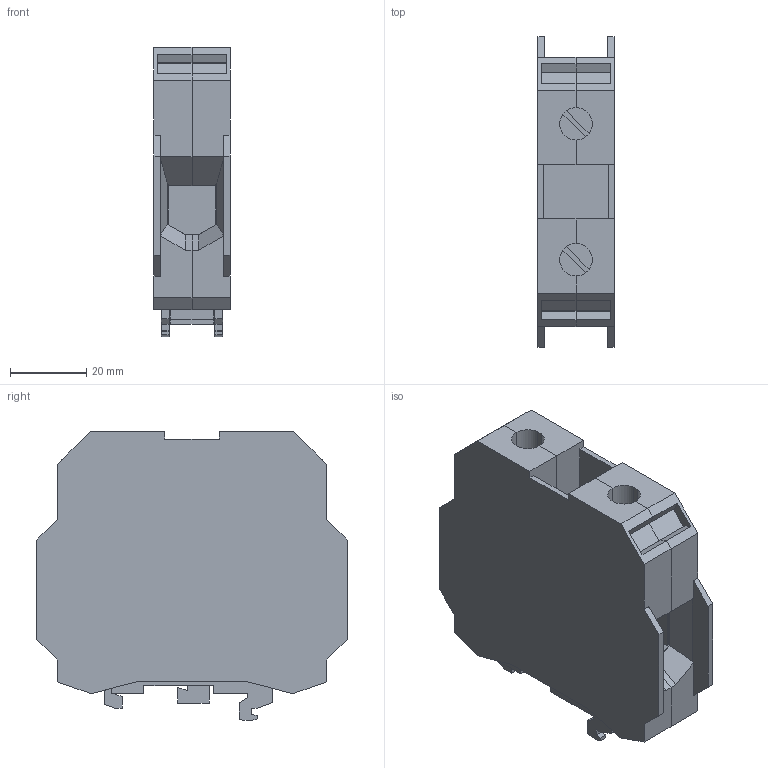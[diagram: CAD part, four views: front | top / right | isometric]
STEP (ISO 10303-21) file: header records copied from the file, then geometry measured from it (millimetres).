
FILE_DESCRIPTION(('Creo Elements/Direct Modeling STEP Export'),'2;1');
FILE_NAME('C:/Temp/JobServerData/JobServer Files/47f0991d-4254-43a6-903c-3bef8104a0e4/work/output/model.stp','2021-09-13T12:28:16',(''),(''),'Creo Elements/Direct Modeling STEP processor for AP214 (Solid Model)','Creo Elements/Direct Modeling 20.1D 10-Oct-2020 (C) Parametric Technology GmbH','');
FILE_SCHEMA(('AUTOMOTIVE_DESIGN { 1 0 10303 214 1 1 1 1 }'));
Length unit declared in the file: millimetre
Products named in the file (2): USLKG_50-select
Assembly tree (1 placements, depth 2):
  USLKG_50-select
    USLKG_50-select
Bounding box: 19.95 x 81.4 x 75.85 mm (x, y, z)
Volume: 74385.1 mm3; surface area: 22433.1 mm2
Topology: 1 solids, 1 shells, 207 faces, 571 edges, 366 vertices
Faces by surface type: plane 197, cylinder 10
Entity records: 7499 total; most frequent: ORIENTED_EDGE 1142, CARTESIAN_POINT 1009, DIRECTION 813, EDGE_CURVE 571, VECTOR 473, LINE 473, VERTEX_POINT 366, EDGE_LOOP 207
